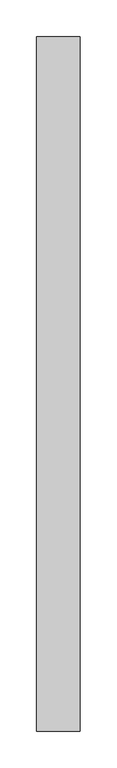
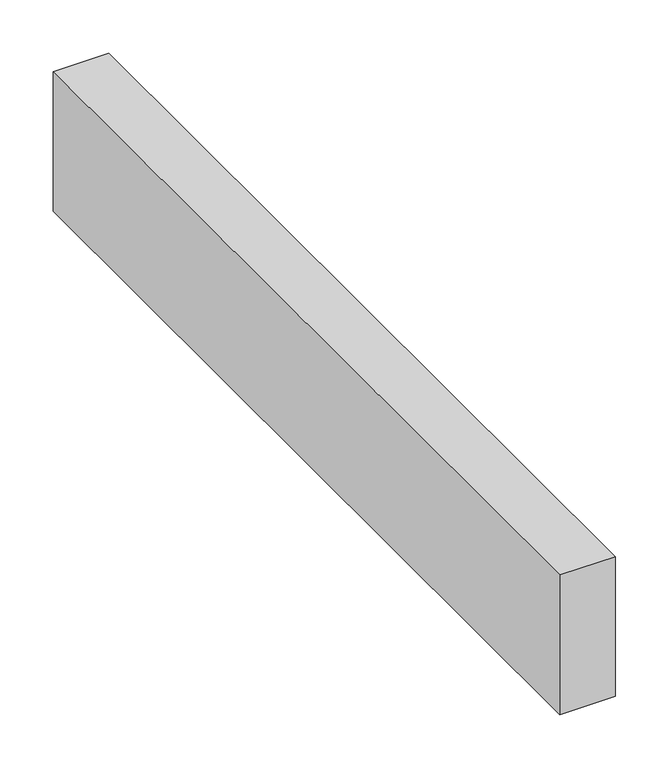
"""IFC4 building model written with IfcOpenShell, lengths in millimetres: proxy geometry, Modelos genéricos 147 : Modelos genéricos 9."""

from ifc_helpers import new_model, si_unit, frame, origin, place, context, project, spatial, polyline, outline, extrude, source, transform, mapped, element, save


def generic_models_c462c927(model_context):
    return source(origin(), model_context, "Body", "SweptSolid", [
        extrude(outline(polyline([(12993.4472467, 2418.6238165), (12993.4472467, 1468.6238165), (12933.4472467, 1468.6238165), (12933.4472467, 2418.6238165), (12993.4472467, 2418.6238165)])), frame((0.0, 0.0, 3000.0), z_axis=(0.0, 0.0, 1.0), x_axis=(1.0, 0.0, 0.0)), (0.0, 0.0, 1.0), 160.0),
    ])


if __name__ == "__main__":
    model = new_model("IFC4")
    model_context = context("Model", 3, world=origin())
    ifc_project = project(units=[si_unit("LENGTHUNIT", "METRE", prefix="MILLI")], contexts=[model_context])
    site = spatial("IfcSite", under=ifc_project)
    building = spatial("IfcBuilding", under=site)
    placement = place(None, origin())
    generic_models_shape = generic_models_c462c927(model_context)
    element("IfcBuildingElementProxy", 1, Name="Modelos genéricos 147 : Modelos genéricos 9", ObjectType="Modelos genéricos 147 : Modelos genéricos 9", at=placement, inside=building, context=model_context, shape_type="MappedRepresentation", body=[
        mapped(generic_models_shape, transform((0.0, 0.0, 0.0), x_axis=(1.0, 0.0, 0.0), y_axis=(0.0, 1.0, 0.0), z_axis=(0.0, 0.0, 1.0))),
    ])
    save(model, "model.ifc")
